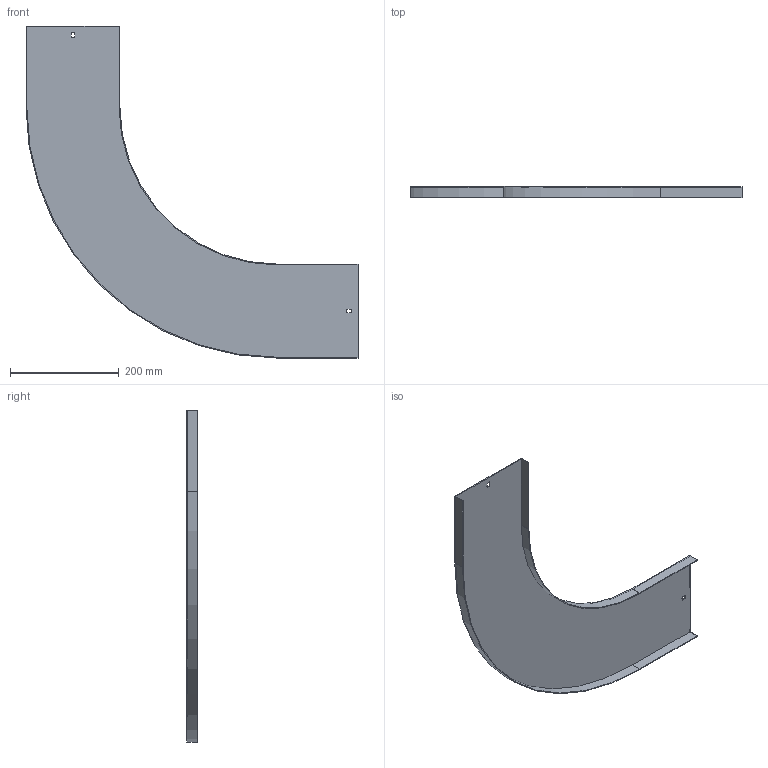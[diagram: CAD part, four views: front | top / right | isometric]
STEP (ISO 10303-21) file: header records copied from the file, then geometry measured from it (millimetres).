
FILE_DESCRIPTION (( 'STEP AP214' ), '1' );
FILE_NAME ('10N3P150.step', '2025-02-21T13:36:28', ( '' ), ( '' ), 'SwSTEP 2.0', 'SolidWorks 2023', '' );
FILE_SCHEMA (( 'AUTOMOTIVE_DESIGN' ));
Length unit declared in the file: millimetre
Products named in the file (1): 10N3P150
Bounding box: 611.5 x 20 x 611.5 mm (x, y, z)
Volume: 279874.8 mm3; surface area: 376556.6 mm2
Topology: 1 solids, 1 shells, 26 faces, 72 edges, 48 vertices
Faces by surface type: plane 22, cylinder 4
Entity records: 855 total; most frequent: CARTESIAN_POINT 147, ORIENTED_EDGE 144, DIRECTION 134, EDGE_CURVE 72, LINE 64, VECTOR 64, VERTEX_POINT 48, AXIS2_PLACEMENT_3D 35
